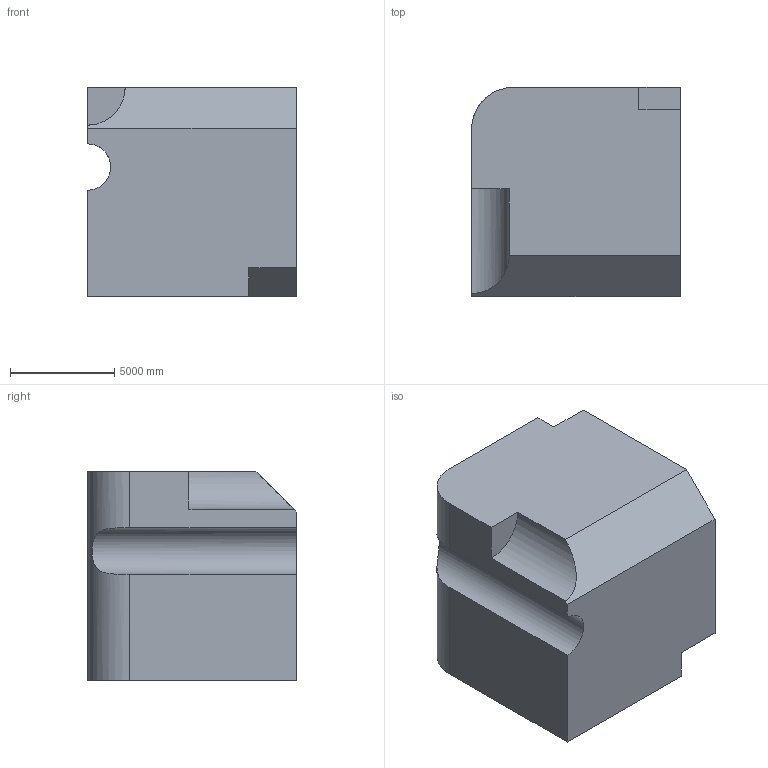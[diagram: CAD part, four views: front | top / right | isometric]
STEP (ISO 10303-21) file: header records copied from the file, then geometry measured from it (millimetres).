
FILE_DESCRIPTION (( 'STEP AP203' ), '1' );
FILE_NAME ('1734.STEP', '2022-08-19T12:12:39', ( 'user' ), ( '' ), 'SwSTEP 2.0', 'SolidWorks 2021', '' );
FILE_SCHEMA (( 'CONFIG_CONTROL_DESIGN' ));
Length unit declared in the file: centimetre
Products named in the file (1): 1734
Bounding box: 10000 x 10000 x 10000 mm (x, y, z)
Volume: 924889489172.6 mm3; surface area: 601608117.7 mm2
Topology: 1 solids, 1 shells, 23 faces, 60 edges, 40 vertices
Faces by surface type: plane 19, cylinder 4
Entity records: 972 total; most frequent: CARTESIAN_POINT 324, ORIENTED_EDGE 120, DIRECTION 112, EDGE_CURVE 60, LINE 52, VECTOR 52, VERTEX_POINT 40, AXIS2_PLACEMENT_3D 30
